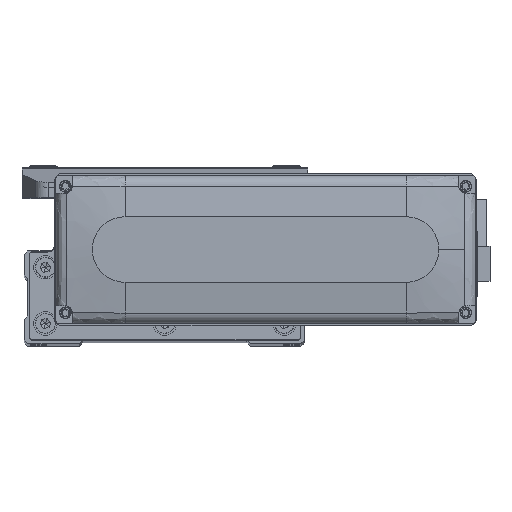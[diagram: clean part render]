
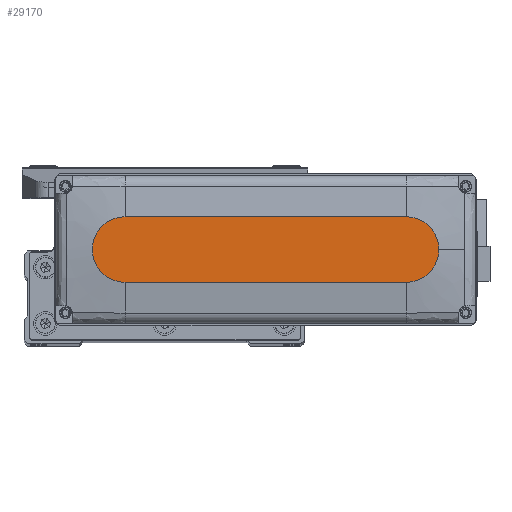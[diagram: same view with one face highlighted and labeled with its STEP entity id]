
A CAD part, top view. The second image highlights one B-rep face of the part: STEP entity #29170.
In plain terms, the highlighted planar face has unit normal (0, 0, 1).
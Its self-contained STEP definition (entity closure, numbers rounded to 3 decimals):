
#123 = CARTESIAN_POINT ( 'NONE',  ( -60., 0., 28.5 ) ) ;
#438 = CARTESIAN_POINT ( 'NONE',  ( -60., -14., 28.5 ) ) ;
#644 = CIRCLE ( 'NONE', #26176, 14. ) ;
#782 = FACE_OUTER_BOUND ( 'NONE', #29819, .T. ) ;
#839 = VECTOR ( 'NONE', #14424, 1000. ) ;
#2066 = CARTESIAN_POINT ( 'NONE',  ( 60., 0., 28.5 ) ) ;
#5237 = CARTESIAN_POINT ( 'NONE',  ( -60., 14., 28.5 ) ) ;
#5336 = VERTEX_POINT ( 'NONE', #22404 ) ;
#5425 = VERTEX_POINT ( 'NONE', #5237 ) ;
#9475 = EDGE_CURVE ( 'NONE', #5425, #19163, #644, .T. ) ;
#10559 = LINE ( 'NONE', #24473, #30883 ) ;
#10758 = AXIS2_PLACEMENT_3D ( 'NONE', #28661, #42597, #11330 ) ;
#11330 = DIRECTION ( 'NONE',  ( 1., 0., 0. ) ) ;
#12348 = CARTESIAN_POINT ( 'NONE',  ( 74., 0., 28.5 ) ) ;
#12536 = DIRECTION ( 'NONE',  ( 0., 0., 1. ) ) ;
#13528 = AXIS2_PLACEMENT_3D ( 'NONE', #43788, #12536, #26431 ) ;
#13650 = ORIENTED_EDGE ( 'NONE', *, *, #16618, .T. ) ;
#14122 = DIRECTION ( 'NONE',  ( 0., 0., 1. ) ) ;
#14332 = VERTEX_POINT ( 'NONE', #12348 ) ;
#14424 = DIRECTION ( 'NONE',  ( 1., 0., 0. ) ) ;
#14773 = PLANE ( 'NONE',  #10758 ) ;
#14882 = CARTESIAN_POINT ( 'NONE',  ( 60., -14., 28.5 ) ) ;
#14930 = AXIS2_PLACEMENT_3D ( 'NONE', #2066, #16037, #29928 ) ;
#16037 = DIRECTION ( 'NONE',  ( 0., 0., 1. ) ) ;
#16618 = EDGE_CURVE ( 'NONE', #25957, #14332, #34583, .T. ) ;
#18741 = EDGE_CURVE ( 'NONE', #14332, #5336, #33160, .T. ) ;
#19163 = VERTEX_POINT ( 'NONE', #22518 ) ;
#19222 = ORIENTED_EDGE ( 'NONE', *, *, #20985, .T. ) ;
#20985 = EDGE_CURVE ( 'NONE', #5336, #5425, #10559, .T. ) ;
#22404 = CARTESIAN_POINT ( 'NONE',  ( 60., 14., 28.5 ) ) ;
#22518 = CARTESIAN_POINT ( 'NONE',  ( -60., -14., 28.5 ) ) ;
#24079 = ORIENTED_EDGE ( 'NONE', *, *, #9475, .T. ) ;
#24473 = CARTESIAN_POINT ( 'NONE',  ( -60., 14., 28.5 ) ) ;
#24795 = ORIENTED_EDGE ( 'NONE', *, *, #32876, .T. ) ;
#25957 = VERTEX_POINT ( 'NONE', #14882 ) ;
#26176 = AXIS2_PLACEMENT_3D ( 'NONE', #123, #14122, #28014 ) ;
#26431 = DIRECTION ( 'NONE',  ( 1., 0., 0. ) ) ;
#28014 = DIRECTION ( 'NONE',  ( 1., 0., 0. ) ) ;
#28661 = CARTESIAN_POINT ( 'NONE',  ( 0., 0., 28.5 ) ) ;
#29170 = ADVANCED_FACE ( 'NONE', ( #782 ), #14773, .T. ) ;
#29819 = EDGE_LOOP ( 'NONE', ( #19222, #24079, #24795, #13650, #44287 ) ) ;
#29928 = DIRECTION ( 'NONE',  ( 1., 0., 0. ) ) ;
#30883 = VECTOR ( 'NONE', #38378, 1000. ) ;
#31735 = LINE ( 'NONE', #438, #839 ) ;
#32876 = EDGE_CURVE ( 'NONE', #19163, #25957, #31735, .T. ) ;
#33160 = CIRCLE ( 'NONE', #13528, 14. ) ;
#34583 = CIRCLE ( 'NONE', #14930, 14. ) ;
#38378 = DIRECTION ( 'NONE',  ( -1., 0., 0. ) ) ;
#42597 = DIRECTION ( 'NONE',  ( 0., 0., 1. ) ) ;
#43788 = CARTESIAN_POINT ( 'NONE',  ( 60., 0., 28.5 ) ) ;
#44287 = ORIENTED_EDGE ( 'NONE', *, *, #18741, .T. ) ;
